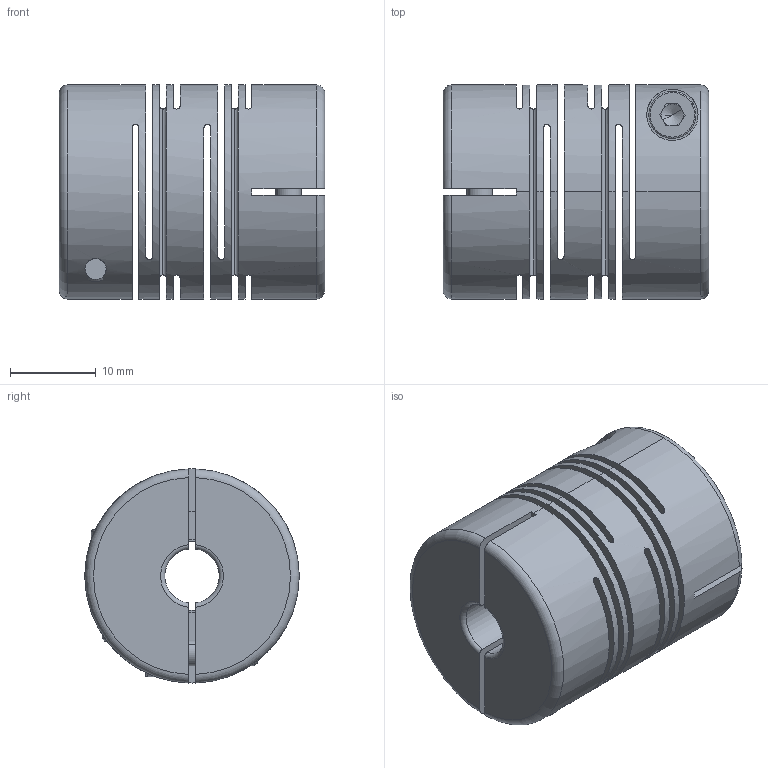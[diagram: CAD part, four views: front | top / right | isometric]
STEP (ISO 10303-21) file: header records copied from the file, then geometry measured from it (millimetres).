
FILE_DESCRIPTION (( 'STEP AP203' ), '1' );
FILE_NAME ('FSCML25-6.35x8.STEP', '2014-01-23T05:22:56', ( '123' ), ( '' ), 'SwSTEP 2.0', 'SolidWorks 2013', '' );
FILE_SCHEMA (( 'CONFIG_CONTROL_DESIGN' ));
Length unit declared in the file: millimetre
Products named in the file (1): FSCML25-6.35x8
Bounding box: 31 x 25 x 25 mm (x, y, z)
Surface area: 10423.2 mm2 (no closed solid volume)
Topology: 0 solids, 5 shells, 120 faces, 356 edges, 238 vertices
Faces by surface type: plane 54, cylinder 44, torus 14, cone 8
Entity records: 4571 total; most frequent: CARTESIAN_POINT 1263, DIRECTION 688, ORIENTED_EDGE 648, EDGE_CURVE 352, AXIS2_PLACEMENT_3D 271, VERTEX_POINT 238, CIRCLE 150, LINE 146
